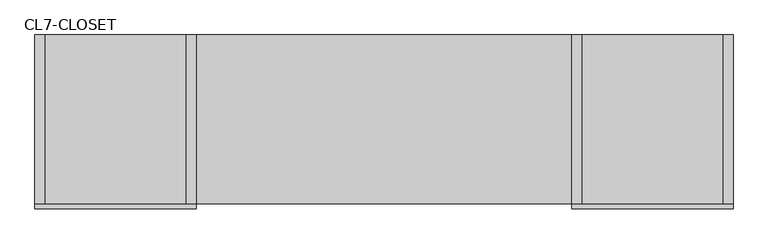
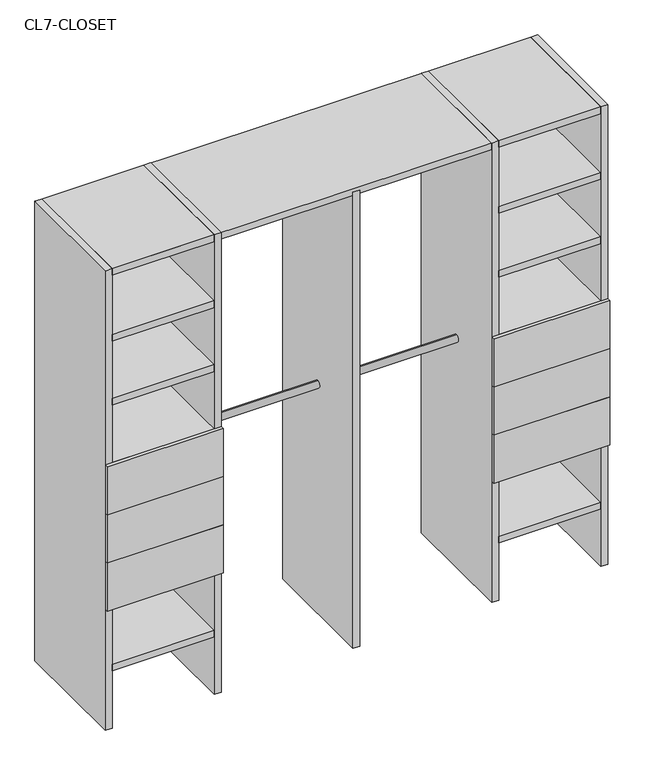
"""IFC4 building model written with IfcOpenShell, lengths in millimetres: furniture geometry, Closet 2estantes-2tubos-centro_sin lateral : CL7-CLOSET."""

import ifcopenshell
import ifcopenshell.guid

model = None  # the IFC model being written
_history = None  # IfcOwnerHistory: only IFC2X3 demands one
_inside = {}  # id of a spatial element -> (the spatial element, [elements in it])
_under = {}  # id of a project, library or spatial element -> (it, [spatial elements below it])
_declared = {}  # id of a project -> (the project, [libraries it declares])
_typed = {}  # id of a type object -> (the type object, [elements of that type])
_made_of = {}  # id of a material, layer set ... -> (it, [elements and type objects made of it])


def new_model(schema):
    """Start an empty IFC model of exactly this schema.

    Asked for "IFC4X3", IfcOpenShell would pick the latest addendum, in which some entities
    have other attributes; the version numbers below select the first issue.
    IFC2X3 requires an IfcOwnerHistory on every rooted entity: one is made here for all.
    """
    global model, _history
    if schema == "IFC4X3":
        model = ifcopenshell.file(schema_version=(4, 3, 0, 0))
    else:
        model = ifcopenshell.file(schema=schema)
    _inside.clear()
    _under.clear()
    _declared.clear()
    _typed.clear()
    _made_of.clear()
    _history = None
    if model.schema == "IFC2X3":
        org = make("IfcOrganization", Name="unknown")
        user = make(
            "IfcPersonAndOrganization",
            ThePerson=make("IfcPerson", FamilyName="unknown"),
            TheOrganization=org,
        )
        app = make(
            "IfcApplication",
            ApplicationDeveloper=org,
            Version="unknown",
            ApplicationFullName="unknown",
            ApplicationIdentifier="unknown",
        )
        _history = make(
            "IfcOwnerHistory",
            OwningUser=user,
            OwningApplication=app,
            ChangeAction="ADDED",
            CreationDate=0,
        )
    return model


def make(cls, **values):
    """One entity of the class cls with the attributes given. An attribute that is None is left unset."""
    return model.create_entity(
        cls, **{name: value for name, value in values.items() if value is not None}
    )


def rooted(cls, **values):
    """An entity with a GlobalId (a new one), such as an element, a storey or a relation."""
    return make(cls, GlobalId=ifcopenshell.guid.new(), OwnerHistory=_history, **values)


def si_unit(unit_type, name, prefix=None):
    """IfcSIUnit, for example si_unit("LENGTHUNIT", "METRE", prefix="MILLI")."""
    return make("IfcSIUnit", UnitType=unit_type, Prefix=prefix, Name=name)


def assignment(units):
    """IfcUnitAssignment: the units of a project."""
    return None if units is None else make("IfcUnitAssignment", Units=units)


def point(xyz):
    """IfcCartesianPoint."""
    return None if xyz is None else make("IfcCartesianPoint", Coordinates=xyz)


def direction(xyz):
    """IfcDirection."""
    return None if xyz is None else make("IfcDirection", DirectionRatios=xyz)


def frame(location, z_axis=None, x_axis=None):
    """IfcAxis2Placement3D, a coordinate frame: its origin and axes. An axis left out is left unset."""
    return make(
        "IfcAxis2Placement3D",
        Location=point(location),
        Axis=direction(z_axis),
        RefDirection=direction(x_axis),
    )


def frame_2d(location, x_axis=None):
    """IfcAxis2Placement2D, a coordinate frame in the plane: its origin and x axis."""
    return make(
        "IfcAxis2Placement2D", Location=point(location), RefDirection=direction(x_axis)
    )


def origin():
    """The frame at (0, 0, 0) with its axes left unset."""
    return frame((0.0, 0.0, 0.0))


def origin_with_axes():
    """The frame at (0, 0, 0) with the z axis (0, 0, 1) and the x axis (1, 0, 0) written out."""
    return frame((0.0, 0.0, 0.0), z_axis=(0.0, 0.0, 1.0), x_axis=(1.0, 0.0, 0.0))


def place(relative_to, where):
    """IfcLocalPlacement: puts the frame where relative to a parent placement (None: the world)."""
    return make(
        "IfcLocalPlacement", PlacementRelTo=relative_to, RelativePlacement=where
    )


def context(
    kind, dimensions, precision=None, world=None, true_north=None, identifier=None
):
    """IfcGeometricRepresentationContext, for example the 3D "Model" context."""
    return make(
        "IfcGeometricRepresentationContext",
        ContextIdentifier=identifier,
        ContextType=kind,
        CoordinateSpaceDimension=dimensions,
        Precision=precision,
        WorldCoordinateSystem=world,
        TrueNorth=true_north,
    )


def project(units=None, contexts=None):
    """IfcProject with its units and contexts."""
    return rooted(
        "IfcProject",
        Name="project",
        RepresentationContexts=contexts,
        UnitsInContext=assignment(units),
    )


def spatial(cls, under=None, at=None, **own):
    """A site, building, storey or space (cls), placed at a placement, below another one or the project."""
    s = rooted(cls, ObjectPlacement=at, **own)
    if under is not None:
        _under.setdefault(under.id(), (under, []))[1].append(s)
    return s


def polyline(points):
    """IfcPolyline through the points."""
    return make("IfcPolyline", Points=[point(p) for p in points])


def circle_curve(where, radius):
    """IfcCircle in the frame where."""
    return make("IfcCircle", Position=where, Radius=radius)


def trimmed(basis, trim1, trim2, sense, master):
    """IfcTrimmedCurve: the piece of a basis curve between two trims."""
    return make(
        "IfcTrimmedCurve",
        BasisCurve=basis,
        Trim1=trim1,
        Trim2=trim2,
        SenseAgreement=sense,
        MasterRepresentation=master,
    )


def segment(curve, same_sense, transition):
    """IfcCompositeCurveSegment."""
    return make(
        "IfcCompositeCurveSegment",
        Transition=transition,
        SameSense=same_sense,
        ParentCurve=curve,
    )


def composite_curve(segments, self_intersect=None):
    """IfcCompositeCurve: segments joined end to end."""
    return make("IfcCompositeCurve", Segments=segments, SelfIntersect=self_intersect)


def outline(outer, holes=None, kind="AREA"):
    """IfcArbitraryClosedProfileDef: a profile drawn as a closed curve; with holes, ...WithVoids."""
    if holes is None:
        return make("IfcArbitraryClosedProfileDef", ProfileType=kind, OuterCurve=outer)
    return make(
        "IfcArbitraryProfileDefWithVoids",
        ProfileType=kind,
        OuterCurve=outer,
        InnerCurves=holes,
    )


def extrude(swept, where, along, depth):
    """IfcExtrudedAreaSolid: the profile swept, set in the frame where, extruded along a direction by depth."""
    return make(
        "IfcExtrudedAreaSolid",
        SweptArea=swept,
        Position=where,
        ExtrudedDirection=direction(along),
        Depth=depth,
    )


def shape(context_of_items, identifier, shape_type, items):
    """IfcShapeRepresentation: the items that make up one representation, for example the "Body"."""
    return make(
        "IfcShapeRepresentation",
        ContextOfItems=context_of_items,
        RepresentationIdentifier=identifier,
        RepresentationType=shape_type,
        Items=items,
    )


def source(mapping_origin, context_of_items, identifier, shape_type, items):
    """IfcRepresentationMap: a shape defined once, which mapped items show again and again."""
    return make(
        "IfcRepresentationMap",
        MappingOrigin=mapping_origin,
        MappedRepresentation=shape(context_of_items, identifier, shape_type, items),
    )


def transform(
    local_origin,
    x_axis=None,
    y_axis=None,
    z_axis=None,
    scale=None,
    scale2=None,
    scale3=None,
    uniform=True,
):
    """IfcCartesianTransformationOperator3D, or its non-uniform kind. x_axis, y_axis, z_axis: its Axis1, 2, 3."""
    if uniform:
        return make(
            "IfcCartesianTransformationOperator3D",
            Axis1=direction(x_axis),
            Axis2=direction(y_axis),
            LocalOrigin=point(local_origin),
            Scale=scale,
            Axis3=direction(z_axis),
        )
    return make(
        "IfcCartesianTransformationOperator3DnonUniform",
        Axis1=direction(x_axis),
        Axis2=direction(y_axis),
        LocalOrigin=point(local_origin),
        Scale=scale,
        Axis3=direction(z_axis),
        Scale2=scale2,
        Scale3=scale3,
    )


def mapped(mapping_source, mapping_target):
    """IfcMappedItem: shows the shape of a source again, moved by a transform."""
    return make(
        "IfcMappedItem", MappingSource=mapping_source, MappingTarget=mapping_target
    )


def made_of(thing, what):
    """Note that an element or type object is made of a material, layer set ...; save() writes the relation."""
    if what is not None:
        _made_of.setdefault(what.id(), (what, []))[1].append(thing)
    return thing


def element(
    cls,
    number,
    at=None,
    inside=None,
    cuts=None,
    type_object=None,
    material=None,
    context=None,
    identifier="Body",
    shape_type=None,
    held_by="IfcProductDefinitionShape",
    body=None,
    shapes=None,
    **own,
):
    """One element of the class cls, such as IfcWall. Its Tag is "e" and its number.

    at: its placement. inside: the storey or other place that contains it. cuts: it is an
    opening in that element (IfcRelVoidsElement). A single representation is given by context,
    identifier, shape_type and body (its items); several are given by shapes. held_by: the class
    of the entity that holds the representations. save() writes the other relations.
    """
    e = rooted(cls, Tag="e%d" % number, ObjectPlacement=at, **own)
    if body is not None:
        shapes = [shape(context, identifier, shape_type, body)]
    if shapes is not None:
        e.Representation = make(held_by, Representations=shapes)
    if inside is not None:
        _inside.setdefault(inside.id(), (inside, []))[1].append(e)
    if cuts is not None:
        rooted(
            "IfcRelVoidsElement", RelatingBuildingElement=cuts, RelatedOpeningElement=e
        )
    if type_object is not None:
        _typed.setdefault(type_object.id(), (type_object, []))[1].append(e)
    return made_of(e, material)


def aggregate(whole, parts):
    """IfcRelAggregates: a whole, such as a stair, and the parts it consists of."""
    return rooted("IfcRelAggregates", RelatingObject=whole, RelatedObjects=parts)


def save(model, path):
    """Write the relations noted so far, then the file.

    IfcRelAggregates (storeys below a building ...), IfcRelContainedInSpatialStructure (elements
    in a storey), IfcRelDefinesByType, IfcRelAssociatesMaterial and IfcRelDeclares: one each for
    every whole, place, type object, material and project.
    """
    for whole, parts in _under.values():
        aggregate(whole, parts)
    for where, things in _inside.values():
        rooted(
            "IfcRelContainedInSpatialStructure",
            RelatedElements=things,
            RelatingStructure=where,
        )
    for kind, things in _typed.values():
        rooted("IfcRelDefinesByType", RelatedObjects=things, RelatingType=kind)
    for what, things in _made_of.values():
        rooted("IfcRelAssociatesMaterial", RelatedObjects=things, RelatingMaterial=what)
    for by, libraries in _declared.values():
        rooted("IfcRelDeclares", RelatingContext=by, RelatedDefinitions=libraries)
    model.write(path)


def cl7_closet_1ca2be92(model_context):
    return source(origin(), model_context, "Body", "SweptSolid", [
        extrude(outline(polyline([(-1351.3752666, 100.0), (-1380.0, 100.0), (-1380.0, 600.0), (-1351.3752666, 600.0), (-1351.3752666, 100.0)])), origin_with_axes(), (0.0, 0.0, 1.0), 2000.0),
        extrude(outline(polyline([(-780.6876333, 100.0), (-809.3123667, 100.0), (-809.3123667, 600.0), (-780.6876333, 600.0), (-780.6876333, 100.0)])), origin_with_axes(), (0.0, 0.0, 1.0), 1985.0),
        extrude(outline(polyline([(-1800.0, 100.0), (-1828.6247334, 100.0), (-1828.6247334, 600.0), (-1800.0, 600.0), (-1800.0, 100.0)])), origin_with_axes(), (0.0, 0.0, 1.0), 2000.0),
        extrude(outline(polyline([(238.6247334, 100.0), (210.0, 100.0), (210.0, 600.0), (238.6247334, 600.0), (238.6247334, 100.0)])), origin_with_axes(), (0.0, 0.0, 1.0), 2000.0),
        extrude(outline(polyline([(-210.0, 100.0), (-238.6247334, 100.0), (-238.6247334, 600.0), (-210.0, 600.0), (-210.0, 100.0)])), origin_with_axes(), (0.0, 0.0, 1.0), 2000.0),
        extrude(outline(polyline([(-1828.6247334, 85.0), (-1828.6247334, 100.0), (-1351.3752666, 100.0), (-1351.3752666, 85.0), (-1828.6247334, 85.0)])), frame((0.0, 0.0, 946.7910447), z_axis=(0.0, 0.0, 1.0), x_axis=(1.0, 0.0, 0.0)), (0.0, 0.0, 1.0), 209.0831556),
        extrude(outline(polyline([(-1828.6247334, 85.0), (-1828.6247334, 100.0), (-1351.3752666, 100.0), (-1351.3752666, 85.0), (-1828.6247334, 85.0)])), frame((0.0, 0.0, 737.7078891), z_axis=(0.0, 0.0, 1.0), x_axis=(1.0, 0.0, 0.0)), (0.0, 0.0, 1.0), 209.0831556),
        extrude(outline(polyline([(-1828.6247334, 85.0), (-1828.6247334, 100.0), (-1351.3752666, 100.0), (-1351.3752666, 85.0), (-1828.6247334, 85.0)])), frame((0.0, 0.0, 528.6247334), z_axis=(0.0, 0.0, 1.0), x_axis=(1.0, 0.0, 0.0)), (0.0, 0.0, 1.0), 209.0831556),
        extrude(outline(polyline([(-1380.0, 100.0), (-1800.0, 100.0), (-1800.0, 600.0), (-1380.0, 600.0), (-1380.0, 100.0)])), frame((0.0, 0.0, 1127.2494669), z_axis=(0.0, 0.0, 1.0), x_axis=(1.0, 0.0, 0.0)), (0.0, 0.0, 1.0), 28.6247334),
        extrude(outline(polyline([(-1380.0, 100.0), (-1800.0, 100.0), (-1800.0, 600.0), (-1380.0, 600.0), (-1380.0, 100.0)])), frame((0.0, 0.0, 250.0), z_axis=(0.0, 0.0, 1.0), x_axis=(1.0, 0.0, 0.0)), (0.0, 0.0, 1.0), 28.6247334),
        extrude(outline(polyline([(-1380.0, 100.0), (-1800.0, 100.0), (-1800.0, 600.0), (-1380.0, 600.0), (-1380.0, 100.0)])), frame((0.0, 0.0, 528.6247334), z_axis=(0.0, 0.0, 1.0), x_axis=(1.0, 0.0, 0.0)), (0.0, 0.0, 1.0), 28.6247334),
        extrude(outline(polyline([(-1380.0, 100.0), (-1800.0, 100.0), (-1800.0, 600.0), (-1380.0, 600.0), (-1380.0, 100.0)])), frame((0.0, 0.0, 1405.8742003), z_axis=(0.0, 0.0, 1.0), x_axis=(1.0, 0.0, 0.0)), (0.0, 0.0, 1.0), 28.6247334),
        extrude(outline(polyline([(-1380.0, 100.0), (-1800.0, 100.0), (-1800.0, 600.0), (-1380.0, 600.0), (-1380.0, 100.0)])), frame((0.0, 0.0, 1684.4989337), z_axis=(0.0, 0.0, 1.0), x_axis=(1.0, 0.0, 0.0)), (0.0, 0.0, 1.0), 28.6247334),
        extrude(outline(polyline([(-1380.0, 100.0), (-1800.0, 100.0), (-1800.0, 600.0), (-1380.0, 600.0), (-1380.0, 100.0)])), frame((0.0, 0.0, 1971.3752666), z_axis=(0.0, 0.0, 1.0), x_axis=(1.0, 0.0, 0.0)), (0.0, 0.0, 1.0), 28.6247334),
        extrude(outline(polyline([(238.6247334, 100.0), (238.6247334, 85.0), (-238.6247334, 85.0), (-238.6247334, 100.0), (238.6247334, 100.0)])), frame((0.0, 0.0, 946.7910447), z_axis=(0.0, 0.0, 1.0), x_axis=(1.0, 0.0, 0.0)), (0.0, 0.0, 1.0), 209.0831556),
        extrude(outline(polyline([(238.6247334, 100.0), (238.6247334, 85.0), (-238.6247334, 85.0), (-238.6247334, 100.0), (238.6247334, 100.0)])), frame((0.0, 0.0, 737.7078891), z_axis=(0.0, 0.0, 1.0), x_axis=(1.0, 0.0, 0.0)), (0.0, 0.0, 1.0), 209.0831556),
        extrude(outline(polyline([(238.6247334, 100.0), (238.6247334, 85.0), (-238.6247334, 85.0), (-238.6247334, 100.0), (238.6247334, 100.0)])), frame((0.0, 0.0, 528.6247334), z_axis=(0.0, 0.0, 1.0), x_axis=(1.0, 0.0, 0.0)), (0.0, 0.0, 1.0), 209.0831556),
        extrude(outline(polyline([(210.0, 100.0), (-210.0, 100.0), (-210.0, 600.0), (210.0, 600.0), (210.0, 100.0)])), frame((0.0, 0.0, 1127.2494669), z_axis=(0.0, 0.0, 1.0), x_axis=(1.0, 0.0, 0.0)), (0.0, 0.0, 1.0), 28.6247334),
        extrude(outline(composite_curve([segment(trimmed(circle_curve(frame_2d((350.0, 1000.0)), 15.0), [point((350.0, 1015.0))], [point((350.0, 985.0))], False, "CARTESIAN"), True, "CONTINUOUS"), segment(trimmed(circle_curve(frame_2d((350.0, 1000.0)), 15.0), [point((350.0, 985.0))], [point((350.0, 1015.0))], False, "CARTESIAN"), True, "CONTINUOUS")], self_intersect=False)), frame((-1351.3752666, 0.0, 0.0), z_axis=(1.0, 0.0, 0.0), x_axis=(0.0, 1.0, 0.0)), (0.0, 0.0, 1.0), 1112.7505331),
        extrude(outline(composite_curve([segment(trimmed(circle_curve(frame_2d((350.0, 1900.0)), 15.0), [point((350.0, 1915.0))], [point((350.0, 1885.0))], False, "CARTESIAN"), True, "CONTINUOUS"), segment(trimmed(circle_curve(frame_2d((350.0, 1900.0)), 15.0), [point((350.0, 1885.0))], [point((350.0, 1915.0))], False, "CARTESIAN"), True, "CONTINUOUS")], self_intersect=False)), frame((-1351.3752666, 0.0, 0.0), z_axis=(1.0, 0.0, 0.0), x_axis=(0.0, 1.0, 0.0)), (0.0, 0.0, 1.0), 1112.7505331),
        extrude(outline(polyline([(210.0, 100.0), (-210.0, 100.0), (-210.0, 600.0), (210.0, 600.0), (210.0, 100.0)])), frame((0.0, 0.0, 250.0), z_axis=(0.0, 0.0, 1.0), x_axis=(1.0, 0.0, 0.0)), (0.0, 0.0, 1.0), 28.6247334),
        extrude(outline(polyline([(210.0, 100.0), (-210.0, 100.0), (-210.0, 600.0), (210.0, 600.0), (210.0, 100.0)])), frame((0.0, 0.0, 528.6247334), z_axis=(0.0, 0.0, 1.0), x_axis=(1.0, 0.0, 0.0)), (0.0, 0.0, 1.0), 28.6247334),
        extrude(outline(polyline([(210.0, 100.0), (-210.0, 100.0), (-210.0, 600.0), (210.0, 600.0), (210.0, 100.0)])), frame((0.0, 0.0, 1405.8742003), z_axis=(0.0, 0.0, 1.0), x_axis=(1.0, 0.0, 0.0)), (0.0, 0.0, 1.0), 28.6247334),
        extrude(outline(polyline([(210.0, 100.0), (-210.0, 100.0), (-210.0, 600.0), (210.0, 600.0), (210.0, 100.0)])), frame((0.0, 0.0, 1684.4989337), z_axis=(0.0, 0.0, 1.0), x_axis=(1.0, 0.0, 0.0)), (0.0, 0.0, 1.0), 28.6247334),
        extrude(outline(polyline([(-210.0, 100.0), (-1800.0, 100.0), (-1800.0, 600.0), (-210.0, 600.0), (-210.0, 100.0)])), frame((0.0, 0.0, 1971.3752666), z_axis=(0.0, 0.0, 1.0), x_axis=(1.0, 0.0, 0.0)), (0.0, 0.0, 1.0), 28.6247334),
        extrude(outline(polyline([(210.0, 100.0), (-210.0, 100.0), (-210.0, 600.0), (210.0, 600.0), (210.0, 100.0)])), frame((0.0, 0.0, 1971.3752666), z_axis=(0.0, 0.0, 1.0), x_axis=(1.0, 0.0, 0.0)), (0.0, 0.0, 1.0), 28.6247334),
    ])


if __name__ == "__main__":
    model = new_model("IFC4")
    model_context = context("Model", 3, world=origin())
    ifc_project = project(units=[si_unit("LENGTHUNIT", "METRE", prefix="MILLI")], contexts=[model_context])
    site = spatial("IfcSite", under=ifc_project)
    building = spatial("IfcBuilding", under=site)
    placement = place(None, origin())
    cl7_closet_shape = cl7_closet_1ca2be92(model_context)
    element("IfcFurniture", 1, ObjectType="Closet 2estantes-2tubos-centro_sin lateral : CL7-CLOSET", at=placement, inside=building, context=model_context, shape_type="MappedRepresentation", body=[
        mapped(cl7_closet_shape, transform((0.0, 0.0, 0.0), x_axis=(1.0, 0.0, 0.0), y_axis=(0.0, 1.0, 0.0), z_axis=(0.0, 0.0, 1.0))),
    ])
    save(model, "model.ifc")
